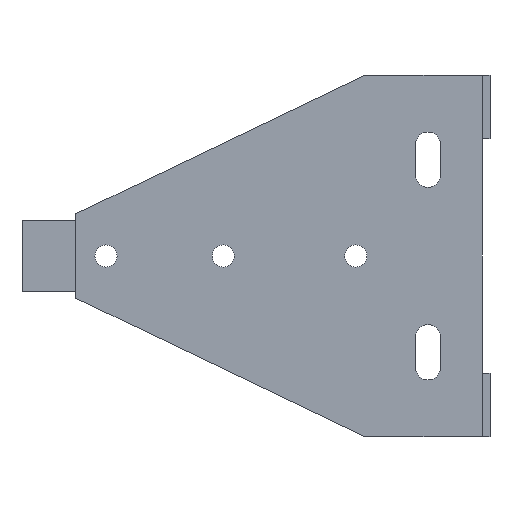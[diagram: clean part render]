
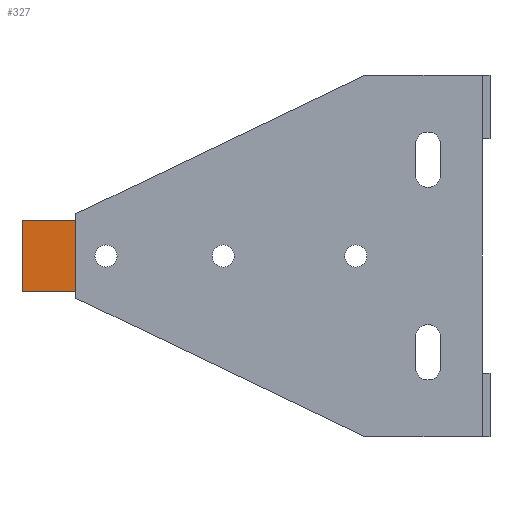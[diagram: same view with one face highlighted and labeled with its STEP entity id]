
A CAD part, left-side view. The second image highlights one B-rep face of the part: STEP entity #327.
In plain terms, the highlighted planar face has unit normal (-1, 0, 0).
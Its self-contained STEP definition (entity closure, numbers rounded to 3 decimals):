
#327 = ADVANCED_FACE ( 'NONE', ( #2460 ), #1317, .F. ) ;
#416 = EDGE_LOOP ( 'NONE', ( #3492, #3493, #3494, #3495 ) ) ;
#563 = AXIS2_PLACEMENT_3D ( 'NONE', #1320, #1326, #1327 ) ;
#865 = EDGE_CURVE ( 'NONE', #3159, #3082, #3910, .T. ) ;
#871 = EDGE_CURVE ( 'NONE', #3082, #3097, #3902, .T. ) ;
#941 = EDGE_CURVE ( 'NONE', #3141, #3097, #4017, .T. ) ;
#980 = EDGE_CURVE ( 'NONE', #3159, #3141, #2766, .T. ) ;
#1317 = PLANE ( 'NONE',  #563 ) ;
#1320 = CARTESIAN_POINT ( 'NONE',  ( 1.5, 79.252, 5.9 ) ) ;
#1326 = DIRECTION ( 'NONE',  ( 1., 0., 0. ) ) ;
#1327 = DIRECTION ( 'NONE',  ( 0., 0., -1. ) ) ;
#1855 = CARTESIAN_POINT ( 'NONE',  ( 1.5, 79.252, -5.9 ) ) ;
#1856 = DIRECTION ( 'NONE',  ( 0., -1., 0. ) ) ;
#1857 = CARTESIAN_POINT ( 'NONE',  ( 1.5, 58.5, -7. ) ) ;
#1865 = DIRECTION ( 'NONE',  ( 0., 0., 1. ) ) ;
#1977 = CARTESIAN_POINT ( 'NONE',  ( 1.5, 79.252, 5.9 ) ) ;
#1978 = DIRECTION ( 'NONE',  ( 0., -1., 0. ) ) ;
#2037 = CARTESIAN_POINT ( 'NONE',  ( 1.5, 67.45, 5.9 ) ) ;
#2038 = DIRECTION ( 'NONE',  ( 0., 0., 1. ) ) ;
#2193 = CARTESIAN_POINT ( 'NONE',  ( 1.5, 58.5, -5.9 ) ) ;
#2208 = CARTESIAN_POINT ( 'NONE',  ( 1.5, 58.5, 5.9 ) ) ;
#2252 = CARTESIAN_POINT ( 'NONE',  ( 1.5, 67.45, 5.9 ) ) ;
#2270 = CARTESIAN_POINT ( 'NONE',  ( 1.5, 67.45, -5.9 ) ) ;
#2460 = FACE_OUTER_BOUND ( 'NONE', #416, .T. ) ;
#2766 = LINE ( 'NONE', #2037, #2768 ) ;
#2768 = VECTOR ( 'NONE', #2038, 1000. ) ;
#3082 = VERTEX_POINT ( 'NONE', #2193 ) ;
#3097 = VERTEX_POINT ( 'NONE', #2208 ) ;
#3141 = VERTEX_POINT ( 'NONE', #2252 ) ;
#3159 = VERTEX_POINT ( 'NONE', #2270 ) ;
#3492 = ORIENTED_EDGE ( 'NONE', *, *, #865, .T. ) ;
#3493 = ORIENTED_EDGE ( 'NONE', *, *, #871, .T. ) ;
#3494 = ORIENTED_EDGE ( 'NONE', *, *, #941, .F. ) ;
#3495 = ORIENTED_EDGE ( 'NONE', *, *, #980, .F. ) ;
#3902 = LINE ( 'NONE', #1857, #3920 ) ;
#3910 = LINE ( 'NONE', #1855, #3911 ) ;
#3911 = VECTOR ( 'NONE', #1856, 1000. ) ;
#3920 = VECTOR ( 'NONE', #1865, 1000. ) ;
#4017 = LINE ( 'NONE', #1977, #4018 ) ;
#4018 = VECTOR ( 'NONE', #1978, 1000. ) ;
